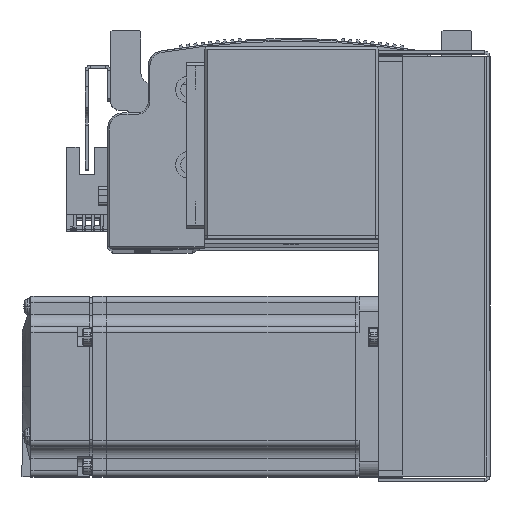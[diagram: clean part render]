
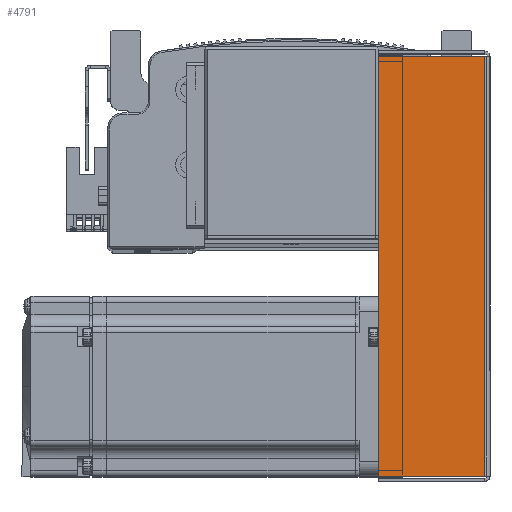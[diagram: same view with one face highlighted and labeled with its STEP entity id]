
A CAD part, top view. The second image highlights one B-rep face of the part: STEP entity #4791.
In plain terms, the highlighted planar face has unit normal (0, 0, 1).
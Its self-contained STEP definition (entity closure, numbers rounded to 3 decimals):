
#4791 = ADVANCED_FACE ( 'NONE', ( #81545 ), #81846, .F. ) ;
#29911 = DIRECTION ( 'NONE',  ( -1., 0., 0. ) ) ;
#29933 = CARTESIAN_POINT ( 'NONE',  ( -71.5, 0.737, 33.5 ) ) ;
#30016 = CARTESIAN_POINT ( 'NONE',  ( 69.793, 0., 33.5 ) ) ;
#30083 = DIRECTION ( 'NONE',  ( 0., 1., 0. ) ) ;
#30150 = CARTESIAN_POINT ( 'NONE',  ( 0., 36., 33.5 ) ) ;
#30164 = DIRECTION ( 'NONE',  ( -1., 0., 0. ) ) ;
#30217 = CARTESIAN_POINT ( 'NONE',  ( -69.793, 0., 33.5 ) ) ;
#30281 = DIRECTION ( 'NONE',  ( 0., 1., 0. ) ) ;
#30396 = EDGE_CURVE ( 'NONE', #60402, #60371, #55135, .T. ) ;
#30426 = EDGE_CURVE ( 'NONE', #60402, #60391, #55120, .T. ) ;
#30464 = EDGE_CURVE ( 'NONE', #60391, #60374, #55199, .T. ) ;
#30485 = EDGE_CURVE ( 'NONE', #60371, #60374, #55201, .T. ) ;
#47826 = AXIS2_PLACEMENT_3D ( 'NONE', #81853, #81841, #81851 ) ;
#51494 = ORIENTED_EDGE ( 'NONE', *, *, #30426, .T. ) ;
#51525 = ORIENTED_EDGE ( 'NONE', *, *, #30485, .F. ) ;
#51527 = ORIENTED_EDGE ( 'NONE', *, *, #30464, .T. ) ;
#51534 = ORIENTED_EDGE ( 'NONE', *, *, #30396, .F. ) ;
#55107 = VECTOR ( 'NONE', #30083, 1000. ) ;
#55120 = LINE ( 'NONE', #30016, #55107 ) ;
#55123 = VECTOR ( 'NONE', #29911, 1000. ) ;
#55135 = LINE ( 'NONE', #29933, #55123 ) ;
#55199 = LINE ( 'NONE', #30150, #55203 ) ;
#55201 = LINE ( 'NONE', #30217, #55231 ) ;
#55203 = VECTOR ( 'NONE', #30164, 1000. ) ;
#55231 = VECTOR ( 'NONE', #30281, 1000. ) ;
#56354 = CARTESIAN_POINT ( 'NONE',  ( -69.793, 0.737, 33.5 ) ) ;
#56368 = CARTESIAN_POINT ( 'NONE',  ( 69.793, 36., 33.5 ) ) ;
#56398 = CARTESIAN_POINT ( 'NONE',  ( -69.793, 36., 33.5 ) ) ;
#56404 = CARTESIAN_POINT ( 'NONE',  ( 69.793, 0.737, 33.5 ) ) ;
#60371 = VERTEX_POINT ( 'NONE', #56354 ) ;
#60374 = VERTEX_POINT ( 'NONE', #56398 ) ;
#60391 = VERTEX_POINT ( 'NONE', #56368 ) ;
#60402 = VERTEX_POINT ( 'NONE', #56404 ) ;
#66601 = EDGE_LOOP ( 'NONE', ( #51534, #51494, #51527, #51525 ) ) ;
#81545 = FACE_OUTER_BOUND ( 'NONE', #66601, .T. ) ;
#81841 = DIRECTION ( 'NONE',  ( 0., 0., -1. ) ) ;
#81846 = PLANE ( 'NONE',  #47826 ) ;
#81851 = DIRECTION ( 'NONE',  ( -1., 0., 0. ) ) ;
#81853 = CARTESIAN_POINT ( 'NONE',  ( 0., 0., 33.5 ) ) ;
